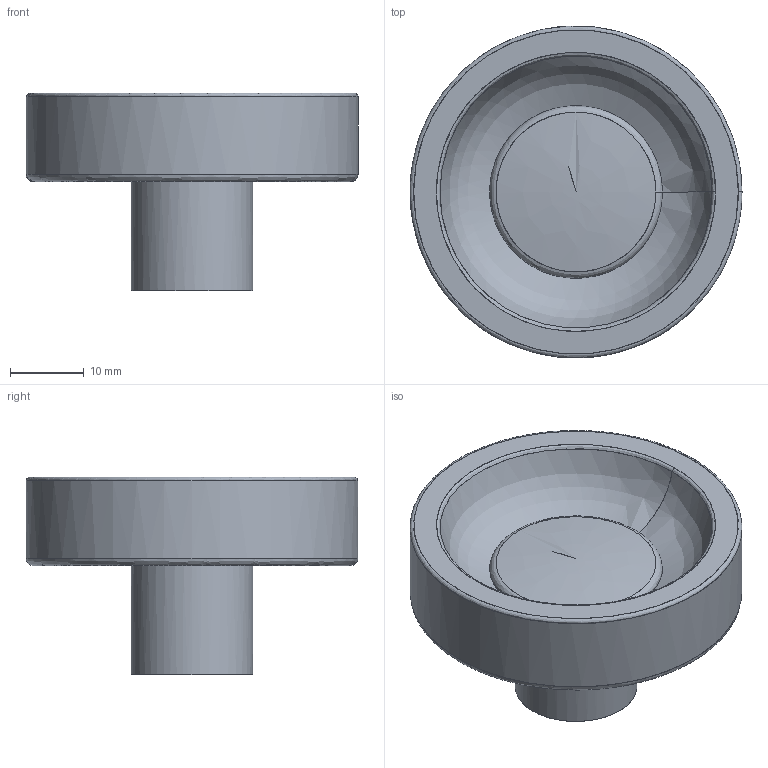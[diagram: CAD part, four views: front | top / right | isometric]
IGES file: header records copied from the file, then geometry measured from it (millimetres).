
Start section: C
Global section: file name: 0101-45.igs; native system: By Siemens PLM Incorporated; preprocessor: XPlus GENERIC/IGES 16.0.42; author: Author; organization: Title; date: 20231211.120109; units: millimetre
Bounding box: 45 x 44.95 x 26.8 mm (x, y, z)
Surface area: 10612.6 mm2 (no closed solid volume)
Topology: 0 solids, 0 shells, 48 faces, 263 edges, 262 vertices
Faces by surface type: bspline 48
